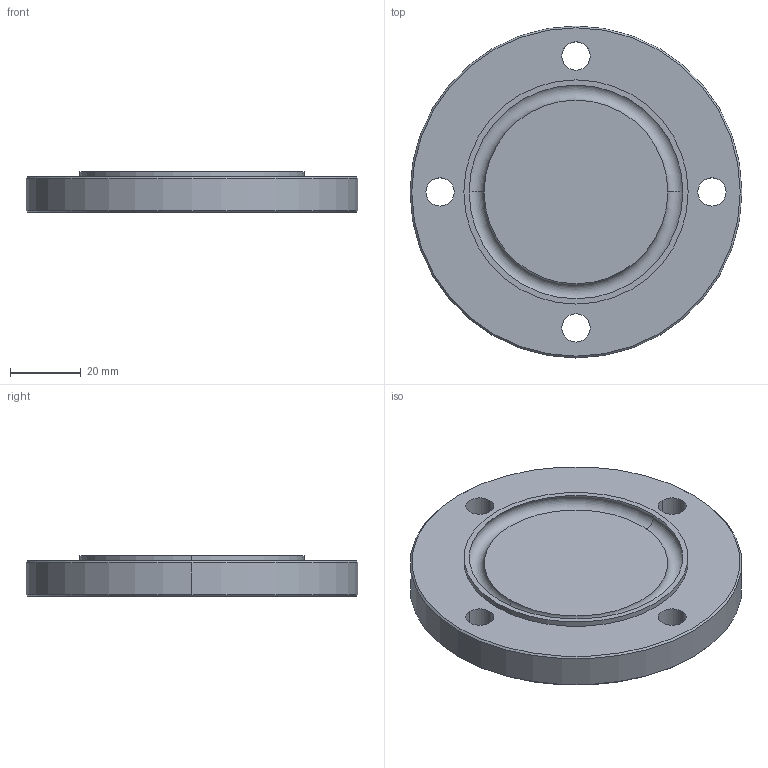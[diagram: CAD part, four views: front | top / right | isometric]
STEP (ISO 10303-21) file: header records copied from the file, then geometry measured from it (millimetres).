
FILE_DESCRIPTION (( 'STEP AP203' ), '1' );
FILE_NAME ('3D_R712_DN53_168071520.STEP', '2024-08-12T08:11:29', ( '' ), ( '' ), 'SwSTEP 2.0', 'SolidWorks 2024', '' );
FILE_SCHEMA (( 'CONFIG_CONTROL_DESIGN' ));
Length unit declared in the file: millimetre
Products named in the file (1): 3D_R712_DN53_168071520
Bounding box: 94 x 94 x 11.5 mm (x, y, z)
Volume: 64540.3 mm3; surface area: 18567.3 mm2
Topology: 1 solids, 1 shells, 22 faces, 50 edges, 32 vertices
Faces by surface type: cylinder 12, cone 4, plane 4, torus 2
Entity records: 729 total; most frequent: DIRECTION 130, CARTESIAN_POINT 105, ORIENTED_EDGE 100, AXIS2_PLACEMENT_3D 57, EDGE_CURVE 50, CIRCLE 34, VERTEX_POINT 32, EDGE_LOOP 32
